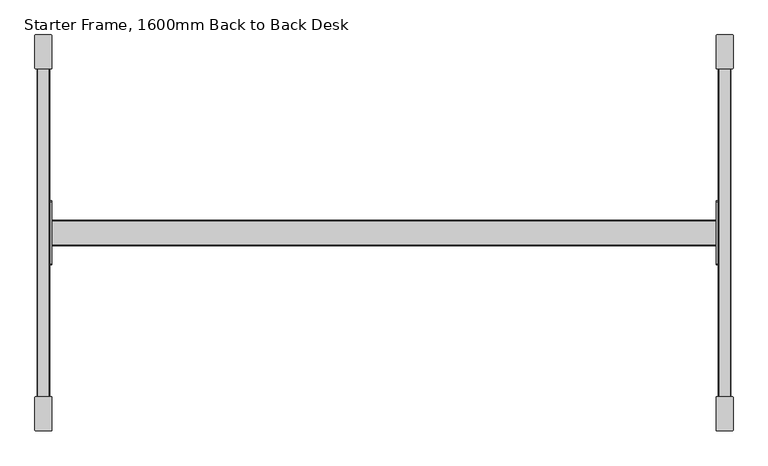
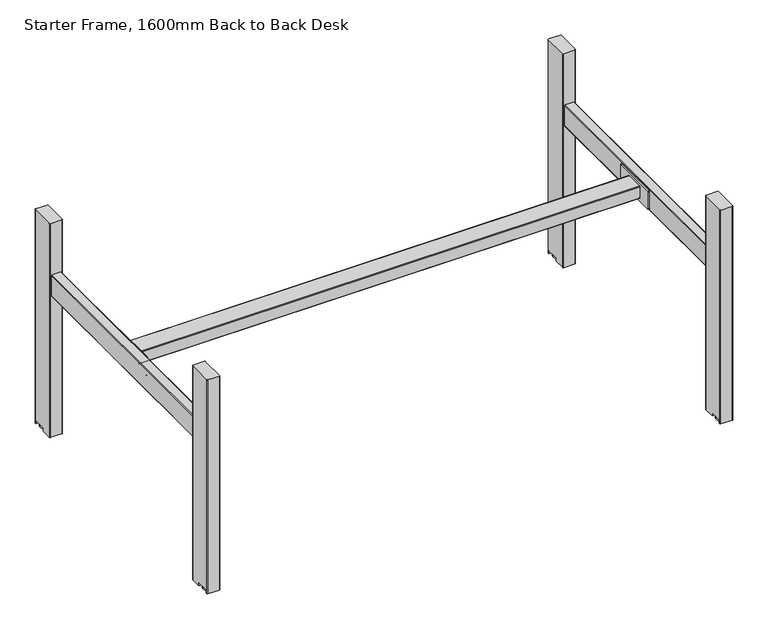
"""IFC4 building model written with IfcOpenShell, lengths in millimetres: furniture geometry, DBLTD_TheSenatorGroup_OffcDsks_Workbase_BackToBack_StarterFrame : Starter Frame, 1600mm Back to Back Desk."""

from ifc_helpers import new_model, si_unit, point, frame, frame_2d, origin, origin_with_axes, place, context, project, spatial, polyline, circle_curve, trimmed, segment, composite_curve, outline, extrude, source, transform, mapped, element, save
from ifc_brep_helpers import plane_surface, cylinder_surface, advanced_brep


def starter_frame_1600mm_back_to_back_desk_0066c329(model_context):
    return source(origin(), model_context, "Body", "SolidModel", [
        advanced_brep(
        [(857.5233383, 1245.6110001, 11.0000074), (897.5, 1245.6110001, 11.0000074), (897.5, 1245.6110001, 0.0), (857.5233383, 1245.6110001, 0.0), (897.5, 1285.6110001, 11.0000074), (857.5233383, 1285.6110001, 11.0000074), (857.5233383, 1285.6110001, 0.0), (897.5, 1285.6110001, 0.0), (897.5, 1288.100174, 704.9999237), (895.5, 1290.100174, 704.9999237), (859.5233383, 1290.100174, 704.9999237), (857.5233383, 1288.100174, 704.9999237), (857.5233383, 1212.100174, 704.9999237), (859.5233383, 1210.100174, 704.9999237), (895.5, 1210.100174, 704.9999237), (897.5, 1212.100174, 704.9999237), (897.5, 1212.100174, 0.0), (895.5, 1210.100174, 0.0), (859.5233383, 1210.100174, 0.0), (857.5233383, 1212.100174, 0.0), (857.5233383, 1288.100174, 0.0), (859.5233383, 1290.100174, 0.0), (895.5, 1290.100174, 0.0), (897.5, 1288.100174, 0.0)],
        [
            (0, 1),
            (1, 2),
            (2, 3),
            (3, 0),
            (4, 5),
            (5, 6),
            (6, 7),
            (7, 4),
            (0, 5),
            (4, 1),
            (8, 9, circle_curve(frame((895.5, 1288.100174, 704.9999237), z_axis=(0.0, 0.0, 1.0), x_axis=(-1.0, 0.0, 0.0)), 2.0)),
            (9, 10),
            (10, 11, circle_curve(frame((859.5233383, 1288.100174, 704.9999237), z_axis=(0.0, 0.0, 1.0), x_axis=(-1.0, 0.0, 0.0)), 2.0)),
            (11, 12),
            (12, 13, circle_curve(frame((859.5233383, 1212.100174, 704.9999237), z_axis=(0.0, 0.0, 1.0), x_axis=(-1.0, 0.0, 0.0)), 2.0)),
            (13, 14),
            (14, 15, circle_curve(frame((895.5, 1212.100174, 704.9999237), z_axis=(0.0, 0.0, 1.0), x_axis=(-1.0, 0.0, 0.0)), 2.0)),
            (15, 8),
            (16, 17, circle_curve(frame((895.5, 1212.100174, 0.0), z_axis=(0.0, 0.0, -1.0), x_axis=(-1.0, 0.0, 0.0)), 2.0)),
            (17, 18),
            (18, 19, circle_curve(frame((859.5233383, 1212.100174, 0.0), z_axis=(0.0, 0.0, -1.0), x_axis=(-1.0, 0.0, 0.0)), 2.0)),
            (19, 3),
            (2, 16),
            (20, 21, circle_curve(frame((859.5233383, 1288.100174, 0.0), z_axis=(0.0, 0.0, -1.0), x_axis=(-1.0, 0.0, 0.0)), 2.0)),
            (21, 22),
            (22, 23, circle_curve(frame((895.5, 1288.100174, 0.0), z_axis=(0.0, 0.0, -1.0), x_axis=(-1.0, 0.0, 0.0)), 2.0)),
            (23, 7),
            (6, 20),
            (15, 16),
            (23, 8),
            (14, 17),
            (13, 18),
            (12, 19),
            (11, 20),
            (10, 21),
            (9, 22),
        ],
        [
            plane_surface(frame((897.5, 1245.6110001, 11.0000074), z_axis=(0.0, 1.0, 0.0), x_axis=(-1.0, 0.0, 0.0))),
            plane_surface(frame((897.5, 1285.6110001, 0.0), z_axis=(0.0, -1.0, 0.0), x_axis=(-1.0, 0.0, 0.0))),
            plane_surface(frame((897.5, 1285.6110001, 11.0000074), z_axis=(0.0, 0.0, -1.0), x_axis=(-1.0, 0.0, 0.0))),
            plane_surface(frame((893.5, 1288.100174, 704.9999237), z_axis=(0.0, 0.0, 1.0), x_axis=(0.0, -1.0, 0.0))),
            plane_surface(frame((893.5, 1288.100174, 0.0), z_axis=(0.0, 0.0, -1.0), x_axis=(0.0, 1.0, 0.0))),
            plane_surface(frame((897.5, 1212.100174, 704.9999237), z_axis=(1.0, 0.0, 0.0), x_axis=(0.0, 0.0, -1.0))),
            cylinder_surface(frame((895.5, 1212.100174, 0.0), z_axis=(0.0, 0.0, 1.0), x_axis=(-1.0, 0.0, 0.0)), 2.0),
            plane_surface(frame((859.5233383, 1210.100174, 704.9999237), z_axis=(0.0, -1.0, 0.0), x_axis=(0.0, 0.0, -1.0))),
            cylinder_surface(frame((859.5233383, 1212.100174, 0.0), z_axis=(0.0, 0.0, 1.0), x_axis=(-1.0, 0.0, 0.0)), 2.0),
            plane_surface(frame((857.5233383, 1288.100174, 704.9999237), z_axis=(-1.0, 0.0, 0.0), x_axis=(0.0, 0.0, -1.0))),
            cylinder_surface(frame((859.5233383, 1288.100174, 0.0), z_axis=(0.0, 0.0, 1.0), x_axis=(-1.0, 0.0, 0.0)), 2.0),
            plane_surface(frame((895.5, 1290.100174, 704.9999237), z_axis=(0.0, 1.0, 0.0), x_axis=(0.0, 0.0, -1.0))),
            cylinder_surface(frame((895.5, 1288.100174, 0.0), z_axis=(0.0, 0.0, 1.0), x_axis=(-1.0, 0.0, 0.0)), 2.0),
        ],
        [
            (0, [[1, 2, 3, 4]]),
            (1, [[5, 6, 7, 8]]),
            (2, [[-1, 9, -5, 10]]),
            (3, [[11, 12, 13, 14, 15, 16, 17, 18]]),
            (4, [[19, 20, 21, 22, -3, 23]]),
            (4, [[24, 25, 26, 27, -7, 28]]),
            (5, [[-18, 29, -23, -2, -10, -8, -27, 30]]),
            (6, [[-17, 31, -19, -29]]),
            (7, [[-16, 32, -20, -31]]),
            (8, [[-15, 33, -21, -32]]),
            (9, [[-14, 34, -28, -6, -9, -4, -22, -33]]),
            (10, [[-13, 35, -24, -34]]),
            (11, [[-12, 36, -25, -35]]),
            (12, [[-11, -30, -26, -36]]),
        ],
    ),
        advanced_brep(
        [(857.5233383, 404.5893478, 11.0000074), (897.5, 404.5893478, 11.0000074), (897.5, 364.5893478, 11.0000074), (857.5233383, 364.5893478, 11.0000074), (897.5, 364.5893478, 0.0), (857.5233383, 364.5893478, 0.0), (857.5233383, 404.5893478, 0.0), (897.5, 404.5893478, 0.0), (897.5, 362.100174, 704.9999237), (897.5, 438.100174, 704.9999237), (895.5, 440.100174, 704.9999237), (859.5233383, 440.100174, 704.9999237), (857.5233383, 438.100174, 704.9999237), (857.5233383, 362.100174, 704.9999237), (859.5233383, 360.100174, 704.9999237), (895.5, 360.100174, 704.9999237), (897.5, 362.100174, 0.0), (895.5, 360.100174, 0.0), (859.5233383, 360.100174, 0.0), (857.5233383, 362.100174, 0.0), (857.5233383, 438.100174, 0.0), (859.5233383, 440.100174, 0.0), (895.5, 440.100174, 0.0), (897.5, 438.100174, 0.0)],
        [
            (0, 1),
            (1, 2),
            (2, 3),
            (3, 0),
            (2, 4),
            (4, 5),
            (5, 3),
            (0, 6),
            (6, 7),
            (7, 1),
            (8, 9),
            (9, 10, circle_curve(frame((895.5, 438.100174, 704.9999237), z_axis=(0.0, 0.0, 1.0), x_axis=(-1.0, 0.0, 0.0)), 2.0)),
            (10, 11),
            (11, 12, circle_curve(frame((859.5233383, 438.100174, 704.9999237), z_axis=(0.0, 0.0, 1.0), x_axis=(-1.0, 0.0, 0.0)), 2.0)),
            (12, 13),
            (13, 14, circle_curve(frame((859.5233383, 362.100174, 704.9999237), z_axis=(0.0, 0.0, 1.0), x_axis=(-1.0, 0.0, 0.0)), 2.0)),
            (14, 15),
            (15, 8, circle_curve(frame((895.5, 362.100174, 704.9999237), z_axis=(0.0, 0.0, 1.0), x_axis=(-1.0, 0.0, 0.0)), 2.0)),
            (16, 17, circle_curve(frame((895.5, 362.100174, 0.0), z_axis=(0.0, 0.0, -1.0), x_axis=(-1.0, 0.0, 0.0)), 2.0)),
            (17, 18),
            (18, 19, circle_curve(frame((859.5233383, 362.100174, 0.0), z_axis=(0.0, 0.0, -1.0), x_axis=(-1.0, 0.0, 0.0)), 2.0)),
            (19, 5),
            (4, 16),
            (20, 21, circle_curve(frame((859.5233383, 438.100174, 0.0), z_axis=(0.0, 0.0, -1.0), x_axis=(-1.0, 0.0, 0.0)), 2.0)),
            (21, 22),
            (22, 23, circle_curve(frame((895.5, 438.100174, 0.0), z_axis=(0.0, 0.0, -1.0), x_axis=(-1.0, 0.0, 0.0)), 2.0)),
            (23, 7),
            (6, 20),
            (15, 17),
            (16, 8),
            (14, 18),
            (13, 19),
            (12, 20),
            (11, 21),
            (10, 22),
            (9, 23),
        ],
        [
            plane_surface(frame((897.5, 404.5893478, 11.0000074), z_axis=(0.0, 0.0, -1.0), x_axis=(-1.0, 0.0, 0.0))),
            plane_surface(frame((897.5, 364.5893478, 11.0000074), z_axis=(0.0, 1.0, 0.0), x_axis=(-1.0, 0.0, 0.0))),
            plane_surface(frame((897.5, 404.5893478, 0.0), z_axis=(0.0, -1.0, 0.0), x_axis=(-1.0, 0.0, 0.0))),
            plane_surface(frame((893.5, 1288.100174, 704.9999237), z_axis=(0.0, 0.0, 1.0), x_axis=(0.0, -1.0, 0.0))),
            plane_surface(frame((893.5, 1288.100174, 0.0), z_axis=(0.0, 0.0, -1.0), x_axis=(0.0, 1.0, 0.0))),
            cylinder_surface(frame((895.5, 362.100174, 0.0), z_axis=(0.0, 0.0, 1.0), x_axis=(-1.0, 0.0, 0.0)), 2.0),
            plane_surface(frame((859.5233383, 360.100174, 704.9999237), z_axis=(0.0, -1.0, 0.0), x_axis=(0.0, 0.0, -1.0))),
            cylinder_surface(frame((859.5233383, 362.100174, 0.0), z_axis=(0.0, 0.0, 1.0), x_axis=(-1.0, 0.0, 0.0)), 2.0),
            plane_surface(frame((857.5233383, 438.100174, 704.9999237), z_axis=(-1.0, 0.0, 0.0), x_axis=(0.0, 0.0, -1.0))),
            cylinder_surface(frame((859.5233383, 438.100174, 0.0), z_axis=(0.0, 0.0, 1.0), x_axis=(-1.0, 0.0, 0.0)), 2.0),
            plane_surface(frame((895.5, 440.100174, 704.9999237), z_axis=(0.0, 1.0, 0.0), x_axis=(0.0, 0.0, -1.0))),
            cylinder_surface(frame((895.5, 438.100174, 0.0), z_axis=(0.0, 0.0, 1.0), x_axis=(-1.0, 0.0, 0.0)), 2.0),
            plane_surface(frame((897.5, 362.100174, 704.9999237), z_axis=(1.0, 0.0, 0.0), x_axis=(0.0, 0.0, -1.0))),
        ],
        [
            (0, [[1, 2, 3, 4]]),
            (1, [[-3, 5, 6, 7]]),
            (2, [[-1, 8, 9, 10]]),
            (3, [[11, 12, 13, 14, 15, 16, 17, 18]]),
            (4, [[19, 20, 21, 22, -6, 23]]),
            (4, [[24, 25, 26, 27, -9, 28]]),
            (5, [[-18, 29, -19, 30]]),
            (6, [[-17, 31, -20, -29]]),
            (7, [[-16, 32, -21, -31]]),
            (8, [[-15, 33, -28, -8, -4, -7, -22, -32]]),
            (9, [[-14, 34, -24, -33]]),
            (10, [[-13, 35, -25, -34]]),
            (11, [[-12, 36, -26, -35]]),
            (12, [[-11, -30, -23, -5, -2, -10, -27, -36]]),
        ],
    ),
        advanced_brep(
        [(-742.5, 1288.100174, 704.9999237), (-742.5, 1212.100174, 704.9999237), (-740.5, 1210.100174, 704.9999237), (-704.5233383, 1210.100174, 704.9999237), (-702.5233383, 1212.100174, 704.9999237), (-702.5233383, 1288.100174, 704.9999237), (-704.5233383, 1290.100174, 704.9999237), (-740.5, 1290.100174, 704.9999237), (-742.5, 1288.100174, 0.0), (-740.5, 1290.100174, 0.0), (-704.5233383, 1290.100174, 0.0), (-702.5233383, 1288.100174, 0.0), (-702.5233383, 1285.6110001, 0.0), (-742.5, 1285.6110001, 0.0), (-702.5233383, 1212.100174, 0.0), (-704.5233383, 1210.100174, 0.0), (-740.5, 1210.100174, 0.0), (-742.5, 1212.100174, 0.0), (-742.5, 1245.6110001, 0.0), (-702.5233383, 1245.6110001, 0.0), (-742.5, 1285.6110001, 11.0000074), (-742.5, 1245.6110001, 11.0000074), (-702.5233383, 1245.6110001, 11.0000074), (-702.5233383, 1285.6110001, 11.0000074)],
        [
            (0, 1),
            (1, 2, circle_curve(frame((-740.5, 1212.100174, 704.9999237), z_axis=(0.0, 0.0, 1.0), x_axis=(1.0, 0.0, 0.0)), 2.0)),
            (2, 3),
            (3, 4, circle_curve(frame((-704.5233383, 1212.100174, 704.9999237), z_axis=(0.0, 0.0, 1.0), x_axis=(1.0, 0.0, 0.0)), 2.0)),
            (4, 5),
            (5, 6, circle_curve(frame((-704.5233383, 1288.100174, 704.9999237), z_axis=(0.0, 0.0, 1.0), x_axis=(1.0, 0.0, 0.0)), 2.0)),
            (6, 7),
            (7, 0, circle_curve(frame((-740.5, 1288.100174, 704.9999237), z_axis=(0.0, 0.0, 1.0), x_axis=(1.0, 0.0, 0.0)), 2.0)),
            (8, 9, circle_curve(frame((-740.5, 1288.100174, 0.0), z_axis=(0.0, 0.0, -1.0), x_axis=(1.0, 0.0, 0.0)), 2.0)),
            (9, 10),
            (10, 11, circle_curve(frame((-704.5233383, 1288.100174, 0.0), z_axis=(0.0, 0.0, -1.0), x_axis=(1.0, 0.0, 0.0)), 2.0)),
            (11, 12),
            (12, 13),
            (13, 8),
            (14, 15, circle_curve(frame((-704.5233383, 1212.100174, 0.0), z_axis=(0.0, 0.0, -1.0), x_axis=(1.0, 0.0, 0.0)), 2.0)),
            (15, 16),
            (16, 17, circle_curve(frame((-740.5, 1212.100174, 0.0), z_axis=(0.0, 0.0, -1.0), x_axis=(1.0, 0.0, 0.0)), 2.0)),
            (17, 18),
            (18, 19),
            (19, 14),
            (0, 8),
            (13, 20),
            (20, 21),
            (21, 18),
            (17, 1),
            (16, 2),
            (15, 3),
            (14, 4),
            (19, 22),
            (22, 23),
            (23, 12),
            (11, 5),
            (10, 6),
            (9, 7),
            (21, 22),
            (23, 20),
        ],
        [
            plane_surface(frame((-742.5, 1212.100174, 704.9999237), z_axis=(0.0, 0.0, 1.0), x_axis=(0.0, -1.0, 0.0))),
            plane_surface(frame((-742.5, 1212.100174, 0.0), z_axis=(0.0, 0.0, -1.0), x_axis=(0.0, 1.0, 0.0))),
            plane_surface(frame((-742.5, 1288.100174, 704.9999237), z_axis=(-1.0, 0.0, 0.0), x_axis=(0.0, 0.0, -1.0))),
            cylinder_surface(frame((-740.5, 1212.100174, 0.0), z_axis=(0.0, 0.0, 1.0), x_axis=(1.0, 0.0, 0.0)), 2.0),
            plane_surface(frame((-740.5, 1210.100174, 704.9999237), z_axis=(0.0, -1.0, 0.0), x_axis=(0.0, 0.0, -1.0))),
            cylinder_surface(frame((-704.5233383, 1212.100174, 0.0), z_axis=(0.0, 0.0, 1.0), x_axis=(1.0, 0.0, 0.0)), 2.0),
            plane_surface(frame((-702.5233383, 1212.100174, 704.9999237), z_axis=(1.0, 0.0, 0.0), x_axis=(0.0, 0.0, -1.0))),
            cylinder_surface(frame((-704.5233383, 1288.100174, 0.0), z_axis=(0.0, 0.0, 1.0), x_axis=(1.0, 0.0, 0.0)), 2.0),
            plane_surface(frame((-704.5233383, 1290.100174, 704.9999237), z_axis=(0.0, 1.0, 0.0), x_axis=(0.0, 0.0, -1.0))),
            cylinder_surface(frame((-740.5, 1288.100174, 0.0), z_axis=(0.0, 0.0, 1.0), x_axis=(1.0, 0.0, 0.0)), 2.0),
            plane_surface(frame((897.5, 1245.6110001, 11.0000074), z_axis=(0.0, 1.0, 0.0), x_axis=(-1.0, 0.0, 0.0))),
            plane_surface(frame((897.5, 1285.6110001, 0.0), z_axis=(0.0, -1.0, 0.0), x_axis=(-1.0, 0.0, 0.0))),
            plane_surface(frame((897.5, 1285.6110001, 11.0000074), z_axis=(0.0, 0.0, -1.0), x_axis=(-1.0, 0.0, 0.0))),
        ],
        [
            (0, [[1, 2, 3, 4, 5, 6, 7, 8]]),
            (1, [[9, 10, 11, 12, 13, 14]]),
            (1, [[15, 16, 17, 18, 19, 20]]),
            (2, [[-1, 21, -14, 22, 23, 24, -18, 25]]),
            (3, [[-2, -25, -17, 26]]),
            (4, [[-3, -26, -16, 27]]),
            (5, [[-4, -27, -15, 28]]),
            (6, [[-5, -28, -20, 29, 30, 31, -12, 32]]),
            (7, [[-6, -32, -11, 33]]),
            (8, [[-7, -33, -10, 34]]),
            (9, [[-8, -34, -9, -21]]),
            (10, [[35, -29, -19, -24]]),
            (11, [[36, -22, -13, -31]]),
            (12, [[-35, -23, -36, -30]]),
        ],
    ),
        advanced_brep(
        [(-742.5, 362.100174, 704.9999237), (-740.5, 360.100174, 704.9999237), (-704.5233383, 360.100174, 704.9999237), (-702.5233383, 362.100174, 704.9999237), (-702.5233383, 438.100174, 704.9999237), (-704.5233383, 440.100174, 704.9999237), (-740.5, 440.100174, 704.9999237), (-742.5, 438.100174, 704.9999237), (-742.5, 438.100174, 0.0), (-740.5, 440.100174, 0.0), (-704.5233383, 440.100174, 0.0), (-702.5233383, 438.100174, 0.0), (-702.5233383, 404.5893478, 0.0), (-742.5, 404.5893478, 0.0), (-702.5233383, 362.100174, 0.0), (-704.5233383, 360.100174, 0.0), (-740.5, 360.100174, 0.0), (-742.5, 362.100174, 0.0), (-742.5, 364.5893478, 0.0), (-702.5233383, 364.5893478, 0.0), (-702.5233383, 364.5893478, 11.0000074), (-702.5233383, 404.5893478, 11.0000074), (-742.5, 404.5893478, 11.0000074), (-742.5, 364.5893478, 11.0000074)],
        [
            (0, 1, circle_curve(frame((-740.5, 362.100174, 704.9999237), z_axis=(0.0, 0.0, 1.0), x_axis=(1.0, 0.0, 0.0)), 2.0)),
            (1, 2),
            (2, 3, circle_curve(frame((-704.5233383, 362.100174, 704.9999237), z_axis=(0.0, 0.0, 1.0), x_axis=(1.0, 0.0, 0.0)), 2.0)),
            (3, 4),
            (4, 5, circle_curve(frame((-704.5233383, 438.100174, 704.9999237), z_axis=(0.0, 0.0, 1.0), x_axis=(1.0, 0.0, 0.0)), 2.0)),
            (5, 6),
            (6, 7, circle_curve(frame((-740.5, 438.100174, 704.9999237), z_axis=(0.0, 0.0, 1.0), x_axis=(1.0, 0.0, 0.0)), 2.0)),
            (7, 0),
            (8, 9, circle_curve(frame((-740.5, 438.100174, 0.0), z_axis=(0.0, 0.0, -1.0), x_axis=(1.0, 0.0, 0.0)), 2.0)),
            (9, 10),
            (10, 11, circle_curve(frame((-704.5233383, 438.100174, 0.0), z_axis=(0.0, 0.0, -1.0), x_axis=(1.0, 0.0, 0.0)), 2.0)),
            (11, 12),
            (12, 13),
            (13, 8),
            (14, 15, circle_curve(frame((-704.5233383, 362.100174, 0.0), z_axis=(0.0, 0.0, -1.0), x_axis=(1.0, 0.0, 0.0)), 2.0)),
            (15, 16),
            (16, 17, circle_curve(frame((-740.5, 362.100174, 0.0), z_axis=(0.0, 0.0, -1.0), x_axis=(1.0, 0.0, 0.0)), 2.0)),
            (17, 18),
            (18, 19),
            (19, 14),
            (0, 17),
            (16, 1),
            (15, 2),
            (14, 3),
            (19, 20),
            (20, 21),
            (21, 12),
            (11, 4),
            (10, 5),
            (9, 6),
            (8, 7),
            (13, 22),
            (22, 23),
            (23, 18),
            (22, 21),
            (20, 23),
        ],
        [
            plane_surface(frame((-742.5, 1212.100174, 704.9999237), z_axis=(0.0, 0.0, 1.0), x_axis=(0.0, -1.0, 0.0))),
            plane_surface(frame((-742.5, 1212.100174, 0.0), z_axis=(0.0, 0.0, -1.0), x_axis=(0.0, 1.0, 0.0))),
            cylinder_surface(frame((-740.5, 362.100174, 0.0), z_axis=(0.0, 0.0, 1.0), x_axis=(1.0, 0.0, 0.0)), 2.0),
            plane_surface(frame((-740.5, 360.100174, 704.9999237), z_axis=(0.0, -1.0, 0.0), x_axis=(0.0, 0.0, -1.0))),
            cylinder_surface(frame((-704.5233383, 362.100174, 0.0), z_axis=(0.0, 0.0, 1.0), x_axis=(1.0, 0.0, 0.0)), 2.0),
            plane_surface(frame((-702.5233383, 362.100174, 704.9999237), z_axis=(1.0, 0.0, 0.0), x_axis=(0.0, 0.0, -1.0))),
            cylinder_surface(frame((-704.5233383, 438.100174, 0.0), z_axis=(0.0, 0.0, 1.0), x_axis=(1.0, 0.0, 0.0)), 2.0),
            plane_surface(frame((-704.5233383, 440.100174, 704.9999237), z_axis=(0.0, 1.0, 0.0), x_axis=(0.0, 0.0, -1.0))),
            cylinder_surface(frame((-740.5, 438.100174, 0.0), z_axis=(0.0, 0.0, 1.0), x_axis=(1.0, 0.0, 0.0)), 2.0),
            plane_surface(frame((-742.5, 438.100174, 704.9999237), z_axis=(-1.0, 0.0, 0.0), x_axis=(0.0, 0.0, -1.0))),
            plane_surface(frame((897.5, 404.5893478, 11.0000074), z_axis=(0.0, 0.0, -1.0), x_axis=(-1.0, 0.0, 0.0))),
            plane_surface(frame((897.5, 364.5893478, 11.0000074), z_axis=(0.0, 1.0, 0.0), x_axis=(-1.0, 0.0, 0.0))),
            plane_surface(frame((897.5, 404.5893478, 0.0), z_axis=(0.0, -1.0, 0.0), x_axis=(-1.0, 0.0, 0.0))),
        ],
        [
            (0, [[1, 2, 3, 4, 5, 6, 7, 8]]),
            (1, [[9, 10, 11, 12, 13, 14]]),
            (1, [[15, 16, 17, 18, 19, 20]]),
            (2, [[-1, 21, -17, 22]]),
            (3, [[-2, -22, -16, 23]]),
            (4, [[-3, -23, -15, 24]]),
            (5, [[-4, -24, -20, 25, 26, 27, -12, 28]]),
            (6, [[-5, -28, -11, 29]]),
            (7, [[-6, -29, -10, 30]]),
            (8, [[-7, -30, -9, 31]]),
            (9, [[-8, -31, -14, 32, 33, 34, -18, -21]]),
            (10, [[35, -26, 36, -33]]),
            (11, [[-36, -25, -19, -34]]),
            (12, [[-35, -32, -13, -27]]),
        ],
    ),
        extrude(outline(composite_curve([segment(trimmed(circle_curve(frame_2d((532.9999619, 864.576046)), 2.0), [point((534.9999619, 864.576046))], [point((532.9999619, 862.576046))], False, "CARTESIAN"), True, "CONTINUOUS"), segment(polyline([(532.9999619, 862.576046), (466.9999619, 862.576046)]), True, "CONTINUOUS"), segment(trimmed(circle_curve(frame_2d((466.9999619, 864.576046)), 2.0), [point((466.9999619, 862.576046))], [point((464.9999619, 864.576046))], False, "CARTESIAN"), True, "CONTINUOUS"), segment(polyline([(464.9999619, 864.576046), (464.9999619, 890.576046)]), True, "CONTINUOUS"), segment(trimmed(circle_curve(frame_2d((466.9999619, 890.576046)), 2.0), [point((464.9999619, 890.576046))], [point((466.9999619, 892.576046))], False, "CARTESIAN"), True, "CONTINUOUS"), segment(polyline([(466.9999619, 892.576046), (532.9999619, 892.576046)]), True, "CONTINUOUS"), segment(trimmed(circle_curve(frame_2d((532.9999619, 890.576046)), 2.0), [point((532.9999619, 892.576046))], [point((534.9999619, 890.576046))], False, "CARTESIAN"), True, "CONTINUOUS"), segment(polyline([(534.9999619, 890.576046), (534.9999619, 864.576046)]), True, "CONTINUOUS")], self_intersect=False)), frame((0.0, 440.100174, 0.0), z_axis=(0.0, 1.0, 0.0), x_axis=(0.0, 0.0, 1.0)), (0.0, 0.0, 1.0), 770.0),
        extrude(outline(composite_curve([segment(trimmed(circle_curve(frame_2d((877.3807335, 1265.5673529)), 18.0), [point((895.3807335, 1265.5673529))], [point((859.3807335, 1265.5673529))], False, "CARTESIAN"), True, "CONTINUOUS"), segment(trimmed(circle_curve(frame_2d((877.3807335, 1265.5673529)), 18.0), [point((859.3807335, 1265.5673529))], [point((895.3807335, 1265.5673529))], False, "CARTESIAN"), True, "CONTINUOUS")], self_intersect=False)), origin_with_axes(), (0.0, 0.0, 1.0), 10.4220208),
        extrude(outline(composite_curve([segment(trimmed(circle_curve(frame_2d((877.3807335, 384.632995)), 18.0), [point((895.3807335, 384.632995))], [point((859.3807335, 384.632995))], False, "CARTESIAN"), True, "CONTINUOUS"), segment(trimmed(circle_curve(frame_2d((877.3807335, 384.632995)), 18.0), [point((859.3807335, 384.632995))], [point((895.3807335, 384.632995))], False, "CARTESIAN"), True, "CONTINUOUS")], self_intersect=False)), origin_with_axes(), (0.0, 0.0, 1.0), 10.4220208),
        extrude(outline(composite_curve([segment(trimmed(circle_curve(frame_2d((-722.3807335, 1265.5673529)), 18.0), [point((-740.3807335, 1265.5673529))], [point((-704.3807335, 1265.5673529))], False, "CARTESIAN"), True, "CONTINUOUS"), segment(trimmed(circle_curve(frame_2d((-722.3807335, 1265.5673529)), 18.0), [point((-704.3807335, 1265.5673529))], [point((-740.3807335, 1265.5673529))], False, "CARTESIAN"), True, "CONTINUOUS")], self_intersect=False)), origin_with_axes(), (0.0, 0.0, 1.0), 10.4220208),
        extrude(outline(composite_curve([segment(trimmed(circle_curve(frame_2d((-722.3807335, 384.632995)), 18.0), [point((-740.3807335, 384.632995))], [point((-704.3807335, 384.632995))], False, "CARTESIAN"), True, "CONTINUOUS"), segment(trimmed(circle_curve(frame_2d((-722.3807335, 384.632995)), 18.0), [point((-704.3807335, 384.632995))], [point((-740.3807335, 384.632995))], False, "CARTESIAN"), True, "CONTINUOUS")], self_intersect=False)), origin_with_axes(), (0.0, 0.0, 1.0), 10.4220208),
        extrude(outline(composite_curve([segment(trimmed(circle_curve(frame_2d((797.100174, 481.9999619)), 2.0), [point((797.100174, 479.9999619))], [point((795.100174, 481.9999619))], False, "CARTESIAN"), True, "CONTINUOUS"), segment(polyline([(795.100174, 481.9999619), (795.100174, 518.0)]), True, "CONTINUOUS"), segment(trimmed(circle_curve(frame_2d((797.100174, 518.0)), 2.0), [point((795.100174, 518.0))], [point((797.100174, 520.0))], False, "CARTESIAN"), True, "CONTINUOUS"), segment(polyline([(797.100174, 520.0), (853.100174, 520.0)]), True, "CONTINUOUS"), segment(trimmed(circle_curve(frame_2d((853.100174, 518.0)), 2.0), [point((853.100174, 520.0))], [point((855.100174, 518.0))], False, "CARTESIAN"), True, "CONTINUOUS"), segment(polyline([(855.100174, 518.0), (855.100174, 481.9999619)]), True, "CONTINUOUS"), segment(trimmed(circle_curve(frame_2d((853.100174, 481.9999619)), 2.0), [point((855.100174, 481.9999619))], [point((853.100174, 479.9999619))], False, "CARTESIAN"), True, "CONTINUOUS"), segment(polyline([(853.100174, 479.9999619), (797.100174, 479.9999619)]), True, "CONTINUOUS")], self_intersect=False)), frame((-703.4999466, 0.0, 0.0), z_axis=(1.0, 0.0, 0.0), x_axis=(0.0, 1.0, 0.0)), (0.0, 0.0, 1.0), 1561.9998932),
        extrude(outline(composite_curve([segment(trimmed(circle_curve(frame_2d((752.100174, 471.9999619)), 2.0), [point((752.100174, 469.9999619))], [point((750.100174, 471.9999619))], False, "CARTESIAN"), True, "CONTINUOUS"), segment(polyline([(750.100174, 471.9999619), (750.100174, 528.0797416)]), True, "CONTINUOUS"), segment(trimmed(circle_curve(frame_2d((752.100174, 528.0797416)), 2.0), [point((750.100174, 528.0797416))], [point((752.100174, 530.0797416))], False, "CARTESIAN"), True, "CONTINUOUS"), segment(polyline([(752.100174, 530.0797416), (898.100174, 530.0797416)]), True, "CONTINUOUS"), segment(trimmed(circle_curve(frame_2d((898.100174, 528.0797416)), 2.0), [point((898.100174, 530.0797416))], [point((900.100174, 528.0797416))], False, "CARTESIAN"), True, "CONTINUOUS"), segment(polyline([(900.100174, 528.0797416), (900.100174, 471.9999619)]), True, "CONTINUOUS"), segment(trimmed(circle_curve(frame_2d((898.100174, 471.9999619)), 2.0), [point((900.100174, 471.9999619))], [point((898.100174, 469.9999619))], False, "CARTESIAN"), True, "CONTINUOUS"), segment(polyline([(898.100174, 469.9999619), (752.100174, 469.9999619)]), True, "CONTINUOUS")], self_intersect=False)), frame((858.4999466, 0.0, 0.0), z_axis=(1.0, 0.0, 0.0), x_axis=(0.0, 1.0, 0.0)), (0.0, 0.0, 1.0), 4.0760994),
        extrude(outline(composite_curve([segment(trimmed(circle_curve(frame_2d((752.100174, 471.9999619)), 2.0), [point((752.100174, 469.9999619))], [point((750.100174, 471.9999619))], False, "CARTESIAN"), True, "CONTINUOUS"), segment(polyline([(750.100174, 471.9999619), (750.100174, 528.0797416)]), True, "CONTINUOUS"), segment(trimmed(circle_curve(frame_2d((752.100174, 528.0797416)), 2.0), [point((750.100174, 528.0797416))], [point((752.100174, 530.0797416))], False, "CARTESIAN"), True, "CONTINUOUS"), segment(polyline([(752.100174, 530.0797416), (898.100174, 530.0797416)]), True, "CONTINUOUS"), segment(trimmed(circle_curve(frame_2d((898.100174, 528.0797416)), 2.0), [point((898.100174, 530.0797416))], [point((900.100174, 528.0797416))], False, "CARTESIAN"), True, "CONTINUOUS"), segment(polyline([(900.100174, 528.0797416), (900.100174, 471.9999619)]), True, "CONTINUOUS"), segment(trimmed(circle_curve(frame_2d((898.100174, 471.9999619)), 2.0), [point((900.100174, 471.9999619))], [point((898.100174, 469.9999619))], False, "CARTESIAN"), True, "CONTINUOUS"), segment(polyline([(898.100174, 469.9999619), (752.100174, 469.9999619)]), True, "CONTINUOUS")], self_intersect=False)), frame((-707.576046, 0.0, 0.0), z_axis=(1.0, 0.0, 0.0), x_axis=(0.0, 1.0, 0.0)), (0.0, 0.0, 1.0), 4.0760994),
        extrude(outline(composite_curve([segment(polyline([(534.9999619, -709.576046), (534.9999619, -735.576046)]), True, "CONTINUOUS"), segment(trimmed(circle_curve(frame_2d((532.9999619, -735.576046)), 2.0), [point((534.9999619, -735.576046))], [point((532.9999619, -737.576046))], False, "CARTESIAN"), True, "CONTINUOUS"), segment(polyline([(532.9999619, -737.576046), (466.9999619, -737.576046)]), True, "CONTINUOUS"), segment(trimmed(circle_curve(frame_2d((466.9999619, -735.576046)), 2.0), [point((466.9999619, -737.576046))], [point((464.9999619, -735.576046))], False, "CARTESIAN"), True, "CONTINUOUS"), segment(polyline([(464.9999619, -735.576046), (464.9999619, -709.576046)]), True, "CONTINUOUS"), segment(trimmed(circle_curve(frame_2d((466.9999619, -709.576046)), 2.0), [point((464.9999619, -709.576046))], [point((466.9999619, -707.576046))], False, "CARTESIAN"), True, "CONTINUOUS"), segment(polyline([(466.9999619, -707.576046), (532.9999619, -707.576046)]), True, "CONTINUOUS"), segment(trimmed(circle_curve(frame_2d((532.9999619, -709.576046)), 2.0), [point((532.9999619, -707.576046))], [point((534.9999619, -709.576046))], False, "CARTESIAN"), True, "CONTINUOUS")], self_intersect=False)), frame((0.0, 440.100174, 0.0), z_axis=(0.0, 1.0, 0.0), x_axis=(0.0, 0.0, 1.0)), (0.0, 0.0, 1.0), 770.0),
    ])


if __name__ == "__main__":
    model = new_model("IFC4")
    model_context = context("Model", 3, world=origin())
    ifc_project = project(units=[si_unit("LENGTHUNIT", "METRE", prefix="MILLI")], contexts=[model_context])
    site = spatial("IfcSite", under=ifc_project)
    building = spatial("IfcBuilding", under=site)
    placement = place(None, origin())
    starter_frame_1600mm_back_to_back_desk_shape = starter_frame_1600mm_back_to_back_desk_0066c329(model_context)
    element("IfcFurniture", 1, ObjectType="DBLTD_TheSenatorGroup_OffcDsks_Workbase_BackToBack_StarterFrame : Starter Frame, 1600mm Back to Back Desk", at=placement, inside=building, context=model_context, shape_type="MappedRepresentation", body=[
        mapped(starter_frame_1600mm_back_to_back_desk_shape, transform((0.0, 0.0, 0.0), x_axis=(1.0, 0.0, 0.0), y_axis=(0.0, 1.0, 0.0), z_axis=(0.0, 0.0, 1.0))),
    ])
    save(model, "model.ifc")
